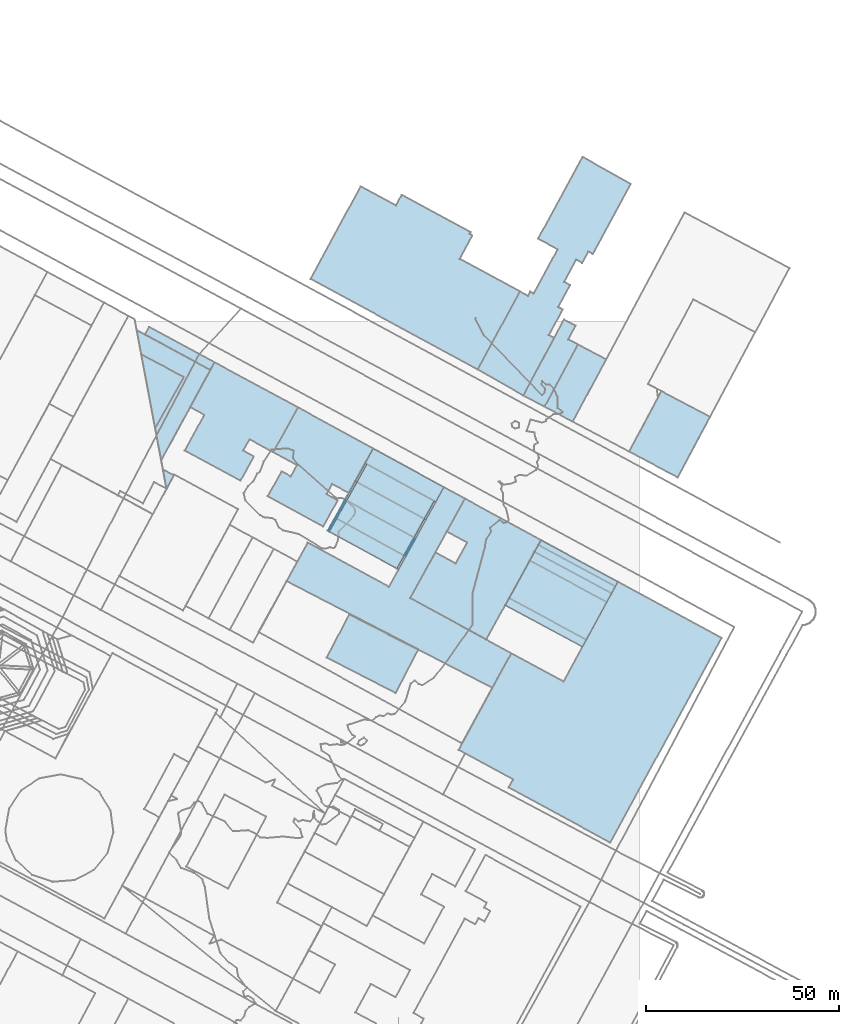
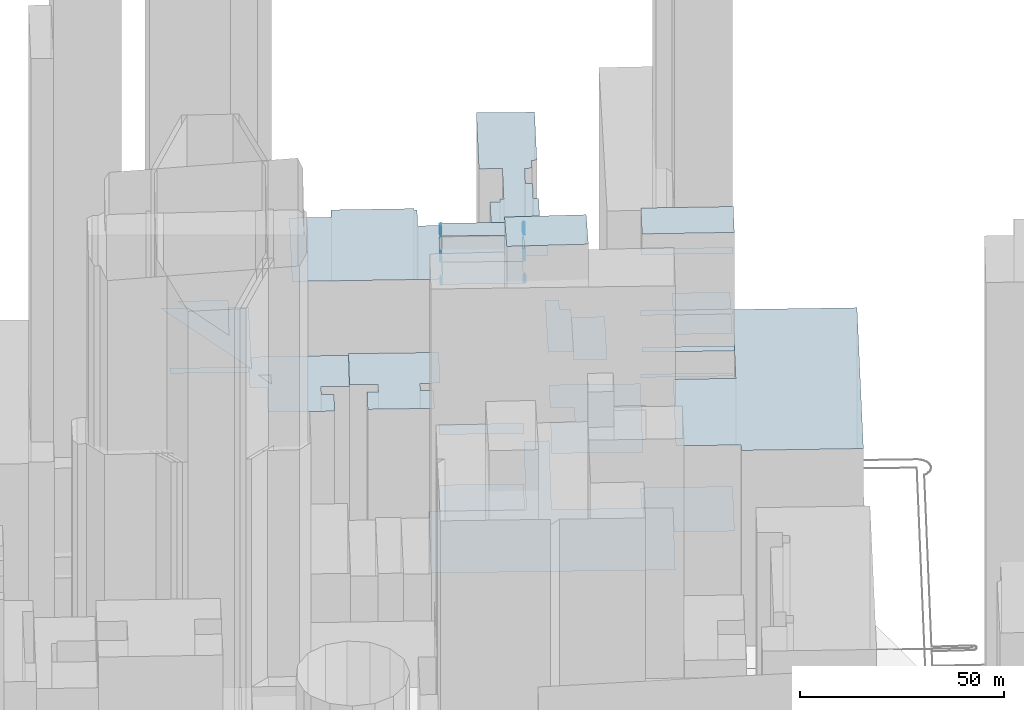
# Not in any storey, part 47 of 80: 34 roofs.
"""IFC4 building model written with IfcOpenShell, lengths in metres."""

from ifc_helpers import new_model, si_unit, frame, origin_with_axes, place, context, subcontext, project, spatial, polygons, element, save


model = new_model("IFC4")

# Units and contexts
model_context = context("Model", 3, precision=1e-05, world=origin_with_axes())
body_context = subcontext(model_context, "Body", "Model", "MODEL_VIEW")
ifc_project = project(units=[si_unit("AREAUNIT", "SQUARE_METRE"), si_unit("LENGTHUNIT", "METRE")], contexts=[model_context])

# Sites, building
site_1_placement = place(None, origin_with_axes())
site_1 = spatial("IfcSite", under=ifc_project, at=site_1_placement, Name="Topoexport Site")
site_2_placement = place(site_1_placement, origin_with_axes())
site_2 = spatial("IfcSite", under=site_1, at=site_2_placement, Name="TPX_BATIMENTS")
building_1_placement = place(site_2_placement, frame((273.8050706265, 299.0342517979, 19.0727612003), z_axis=(0.0, 0.0, 1.0), x_axis=(1.0, 0.0, 0.0)))
building_1 = spatial("IfcBuilding", under=site_2, at=building_1_placement, Name="Batiment 130", CompositionType="ELEMENT")

# Roof
roof_1_placement = place(None, frame((273.8050706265, 299.0342517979, 19.0727612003), z_axis=(0.0, 0.0, 1.0), x_axis=(1.0, 0.0, 0.0)))
element("IfcRoof", 1, at=roof_1_placement, inside=building_1, Name="Toiture 0", context=body_context, shape_type="Tessellation", body=[
    polygons([(0.0, 0.0, 20.0), (52.5953372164, -28.7420789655, 20.0), (65.4084536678, -5.4668426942, 20.0), (39.2593969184, 8.8281193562, 20.0), (53.4200569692, 34.5393207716, 20.0), (47.9405768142, 37.5286335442, 20.0), (33.7387369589, 11.728145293, 20.0), (12.77205858, 23.1858472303, 20.0)], [[[8, 1, 2]], [[2, 3, 4]], [[4, 5, 6]], [[7, 8, 2]], [[4, 6, 7]], [[7, 2, 4]]]),
])

# Building
building_2_placement = place(site_2_placement, frame((291.481800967, 292.4676192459, 19.6985343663), z_axis=(0.0, 0.0, 1.0), x_axis=(1.0, 0.0, 0.0)))
building_2 = spatial("IfcBuilding", under=site_2, at=building_2_placement, Name="Batiment 131", CompositionType="ELEMENT")

# Roof
roof_2_placement = place(None, frame((291.481800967, 292.4676192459, 19.6985343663), z_axis=(0.0, 0.0, 1.0), x_axis=(1.0, 0.0, 0.0)))
element("IfcRoof", 2, at=roof_2_placement, inside=building_2, Name="Toiture 0", context=body_context, shape_type="Tessellation", body=[
    polygons([(0.0, 0.0, 115.0), (17.8254281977, -9.1849936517, 115.0), (23.6378591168, 2.0071491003, 115.0), (5.7876459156, 11.1474308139, 115.0)], [[[4, 1, 2]], [[2, 3, 4]]]),
])

# Building
building_3_placement = place(site_2_placement, frame((313.0644675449, 307.8623711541, 19.1866417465), z_axis=(0.0, 0.0, 1.0), x_axis=(1.0, 0.0, 0.0)))
building_3 = spatial("IfcBuilding", under=site_2, at=building_3_placement, Name="Batiment 133", CompositionType="ELEMENT")

# Roof
roof_3_placement = place(None, frame((313.0644675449, 307.8623711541, 19.1866417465), z_axis=(0.0, 0.0, 1.0), x_axis=(1.0, 0.0, 0.0)))
element("IfcRoof", 3, at=roof_3_placement, inside=building_3, Name="Toiture 0", context=body_context, shape_type="Tessellation", body=[
    polygons([(0.0, 0.0, 36.5999984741), (19.658559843, -10.751216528, 36.5999984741), (33.8190454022, 14.9711235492, 36.5999984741), (14.1606600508, 25.7112014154, 36.5999984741), (9.4817474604, 17.2189943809, 36.5999984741), (14.7234881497, 14.349038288, 36.5999984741), (11.7557583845, 8.9631871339, 36.5999984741), (6.5141444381, 11.8220445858, 36.5999984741)], [[[8, 1, 2]], [[2, 3, 4]], [[4, 5, 6]], [[7, 8, 2]], [[2, 4, 6]], [[6, 7, 2]]]),
])

# Building
building_4_placement = place(site_2_placement, frame((337.6756915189, 306.0173396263, 18.6021443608), z_axis=(0.0, 0.0, 1.0), x_axis=(1.0, 0.0, 0.0)))
building_4 = spatial("IfcBuilding", under=site_2, at=building_4_placement, Name="Batiment 134", CompositionType="ELEMENT")

# Roof
roof_4_placement = place(None, frame((337.6756915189, 306.0173396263, 18.6021443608), z_axis=(0.0, 0.0, 1.0), x_axis=(1.0, 0.0, 0.0)))
element("IfcRoof", 4, at=roof_4_placement, inside=building_4, Name="Toiture 0", context=body_context, shape_type="Tessellation", body=[
    polygons([(0.0, 0.0, 6.0), (19.9288194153, -10.7591061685, 6.0), (29.0941508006, 6.0787837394, 6.0), (9.2078214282, 16.816155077, 6.0)], [[[4, 1, 2]], [[2, 3, 4]]]),
])

# Building
building_5_placement = place(site_2_placement, frame((337.6756915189, 306.0173396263, 18.6175268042), z_axis=(0.0, 0.0, 1.0), x_axis=(1.0, 0.0, 0.0)))
building_5 = spatial("IfcBuilding", under=site_2, at=building_5_placement, Name="Batiment 135", CompositionType="ELEMENT")

# Roof
roof_5_placement = place(None, frame((337.6756915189, 306.0173396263, 18.6175268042), z_axis=(0.0, 0.0, 1.0), x_axis=(1.0, 0.0, 0.0)))
element("IfcRoof", 5, at=roof_5_placement, inside=building_5, Name="Toiture 0", context=body_context, shape_type="Tessellation", body=[
    polygons([(0.0, 0.0, 60.0), (19.9288194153, -10.7591061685, 60.0), (20.9205700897, -8.9378836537, 60.0), (0.9833137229, 1.8211215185, 60.0)], [[[4, 1, 2]], [[2, 3, 4]]]),
])

# Building
building_6_placement = place(site_2_placement, frame((338.6590052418, 307.8384611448, 18.5825367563), z_axis=(0.0, 0.0, 1.0), x_axis=(1.0, 0.0, 0.0)))
building_6 = spatial("IfcBuilding", under=site_2, at=building_6_placement, Name="Batiment 136", CompositionType="ELEMENT")

# Roof
roof_6_placement = place(None, frame((338.6590052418, 307.8384611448, 18.5825367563), z_axis=(0.0, 0.0, 1.0), x_axis=(1.0, 0.0, 0.0)))
element("IfcRoof", 6, at=roof_6_placement, inside=building_6, Name="Toiture 0", context=body_context, shape_type="Tessellation", body=[
    polygons([(0.0, 0.0, 94.0), (19.9372563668, -10.7590051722, 94.0), (25.2348095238, -1.0272163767, 94.0), (5.3058816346, 9.7429734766, 94.0)], [[[4, 1, 2]], [[2, 3, 4]]]),
])

# Building
building_7_placement = place(site_2_placement, frame((325.5761584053, 268.583928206, 18.0179124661), z_axis=(0.0, 0.0, 1.0), x_axis=(1.0, 0.0, 0.0)))
building_7 = spatial("IfcBuilding", under=site_2, at=building_7_placement, Name="Batiment 137", CompositionType="ELEMENT")

# Roof
roof_7_placement = place(None, frame((325.5761584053, 268.583928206, 18.0179124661), z_axis=(0.0, 0.0, 1.0), x_axis=(1.0, 0.0, 0.0)))
element("IfcRoof", 7, at=roof_7_placement, inside=building_7, Name="Toiture 0", context=body_context, shape_type="Tessellation", body=[
    polygons([(0.0, 0.0, 59.5), (14.076432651, -7.6409558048, 59.5), (12.9441609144, -9.7191640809, 59.5), (39.2536749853, -24.0010695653, 59.5), (68.012848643, 28.9476731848, 59.5), (41.1936839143, 43.5121951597, 59.5), (27.1697109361, 17.669281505, 59.5), (13.637365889, 24.9834808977, 59.5)], [[[8, 1, 2]], [[2, 3, 4]], [[4, 5, 6]], [[7, 8, 2]], [[2, 4, 6]], [[6, 7, 2]]]),
])

# Building
building_8_placement = place(site_2_placement, frame((369.7036563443, 345.7479637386, 18.6004102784), z_axis=(0.0, 0.0, 1.0), x_axis=(1.0, 0.0, 0.0)))
building_8 = spatial("IfcBuilding", under=site_2, at=building_8_placement, Name="Batiment 225", CompositionType="ELEMENT")

# Roof
roof_8_placement = place(None, frame((369.7036563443, 345.7479637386, 18.6004102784), z_axis=(0.0, 0.0, 1.0), x_axis=(1.0, 0.0, 0.0)))
element("IfcRoof", 8, at=roof_8_placement, inside=building_8, Name="Toiture 0", context=body_context, shape_type="Tessellation", body=[
    polygons([(0.0, 0.0, 30.0), (12.5538989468, -6.6594085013, 30.0), (20.9058219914, 8.9810939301, 30.0), (8.3520704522, 15.6293873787, 30.0)], [[[4, 1, 2]], [[2, 3, 4]]]),
])

# Building
building_9_placement = place(site_2_placement, frame((347.815184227, 357.3501845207, 19.4967408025), z_axis=(0.0, 0.0, 1.0), x_axis=(1.0, 0.0, 0.0)))
building_9 = spatial("IfcBuilding", under=site_2, at=building_9_placement, Name="Batiment 227", CompositionType="ELEMENT")

# Roof
roof_9_placement = place(None, frame((347.815184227, 357.3501845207, 19.4967408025), z_axis=(0.0, 0.0, 1.0), x_axis=(1.0, 0.0, 0.0)))
element("IfcRoof", 9, at=roof_9_placement, inside=building_9, Name="Toiture 0", context=body_context, shape_type="Tessellation", body=[
    polygons([(0.0, 0.0, 22.1000003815), (7.30458982, -3.8673156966, 22.1000003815), (15.9293867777, 12.2648342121, 22.1000003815), (8.6248078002, 16.13214132, 22.1000003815)], [[[4, 1, 2]], [[2, 3, 4]]]),
])

# Building
building_10_placement = place(site_2_placement, frame((342.3281774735, 360.2616784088, 19.6845045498), z_axis=(0.0, 0.0, 1.0), x_axis=(1.0, 0.0, 0.0)))
building_10 = spatial("IfcBuilding", under=site_2, at=building_10_placement, Name="Batiment 228", CompositionType="ELEMENT")

# Roof
roof_10_placement = place(None, frame((342.3281774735, 360.2616784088, 19.6845045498), z_axis=(0.0, 0.0, 1.0), x_axis=(1.0, 0.0, 0.0)))
element("IfcRoof", 10, at=roof_10_placement, inside=building_10, Name="Toiture 0", context=body_context, shape_type="Tessellation", body=[
    polygons([(0.0, 0.0, 24.3999996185), (5.4870067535, -2.9114938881, 24.3999996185), (14.1118145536, 13.2206474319, 24.3999996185), (11.6146310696, 14.5460328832, 24.3999996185), (13.4982515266, 18.0651895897, 24.3999996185), (10.4999972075, 19.6511924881, 24.3999996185)], [[[6, 1, 2]], [[2, 3, 4]], [[4, 5, 6]], [[6, 2, 4]]]),
])

# Building
building_11_placement = place(site_2_placement, frame((291.7498532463, 325.277922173, 20.2810071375), z_axis=(0.0, 0.0, 1.0), x_axis=(1.0, 0.0, 0.0)))
building_11 = spatial("IfcBuilding", under=site_2, at=building_11_placement, Name="Batiment 229", CompositionType="ELEMENT")

# Roof
roof_11_placement = place(None, frame((291.7498532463, 325.277922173, 20.2810071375), z_axis=(0.0, 0.0, 1.0), x_axis=(1.0, 0.0, 0.0)))
element("IfcRoof", 11, at=roof_11_placement, inside=building_11, Name="Toiture 0", context=body_context, shape_type="Tessellation", body=[
    polygons([(0.0, 0.0, 6.0), (18.2821181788, -9.9901391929, 6.0), (29.9957941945, 11.2849631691, 6.0), (11.7137108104, 21.2750732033, 6.0)], [[[4, 1, 2]], [[2, 3, 4]]]),
])

# Building
building_12_placement = place(site_2_placement, frame((296.5802961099, 333.0835325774, 20.3677468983), z_axis=(0.0, 0.0, 1.0), x_axis=(1.0, 0.0, 0.0)))
building_12 = spatial("IfcBuilding", under=site_2, at=building_12_placement, Name="Batiment 230", CompositionType="ELEMENT")

# Roof
roof_12_placement = place(None, frame((296.5802961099, 333.0835325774, 20.3677468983), z_axis=(0.0, 0.0, 1.0), x_axis=(1.0, 0.0, 0.0)))
element("IfcRoof", 12, at=roof_12_placement, inside=building_12, Name="Toiture 0", context=body_context, shape_type="Tessellation", body=[
    polygons([(0.0, 0.0, 91.0), (17.4583642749, -9.5667304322, 91.0), (20.0861254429, -4.7066486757, 91.0), (2.6876256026, 4.7941587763, 91.0)], [[[4, 1, 2]], [[2, 3, 4]]]),
])

# Building
building_13_placement = place(site_2_placement, frame((292.1322472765, 325.0603282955, 20.29910505), z_axis=(0.0, 0.0, 1.0), x_axis=(1.0, 0.0, 0.0)))
building_13 = spatial("IfcBuilding", under=site_2, at=building_13_placement, Name="Batiment 231", CompositionType="ELEMENT")

# Roof
roof_13_placement = place(None, frame((292.1322472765, 325.0603282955, 20.29910505), z_axis=(0.0, 0.0, 1.0), x_axis=(1.0, 0.0, 0.0)))
element("IfcRoof", 13, at=roof_13_placement, inside=building_13, Name="Toiture 0", context=body_context, shape_type="Tessellation", body=[
    polygons([(0.0, 0.0, 83.0), (17.4495487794, -9.5335370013, 83.0), (27.0802443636, 7.9425396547, 83.0), (9.6733115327, 17.4432428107, 83.0)], [[[4, 1, 2]], [[2, 3, 4]]]),
])

# Building
building_14_placement = place(site_2_placement, frame((294.0094084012, 328.4128587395, 20.2723875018), z_axis=(0.0, 0.0, 1.0), x_axis=(1.0, 0.0, 0.0)))
building_14 = spatial("IfcBuilding", under=site_2, at=building_14_placement, Name="Batiment 232", CompositionType="ELEMENT")

# Roof
roof_14_placement = place(None, frame((294.0094084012, 328.4128587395, 20.2723875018), z_axis=(0.0, 0.0, 1.0), x_axis=(1.0, 0.0, 0.0)))
element("IfcRoof", 14, at=roof_14_placement, inside=building_14, Name="Toiture 0", context=body_context, shape_type="Tessellation", body=[
    polygons([(0.0, 0.0, 87.0), (17.4333093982, -9.5892328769, 87.0), (22.6570131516, -0.0359748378, 87.0), (5.2585133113, 9.4648326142, 87.0)], [[[4, 1, 2]], [[2, 3, 4]]]),
])

# Building
building_15_placement = place(site_2_placement, frame((296.1724525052, 333.3119322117, 20.3484595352), z_axis=(0.0, 0.0, 1.0), x_axis=(1.0, 0.0, 0.0)))
building_15 = spatial("IfcBuilding", under=site_2, at=building_15_placement, Name="Batiment 233", CompositionType="ELEMENT")

# Roof
roof_15_placement = place(None, frame((296.1724525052, 333.3119322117, 20.3484595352), z_axis=(0.0, 0.0, 1.0), x_axis=(1.0, 0.0, 0.0)))
element("IfcRoof", 15, at=roof_15_placement, inside=building_15, Name="Toiture 0", context=body_context, shape_type="Tessellation", body=[
    polygons([(0.0, 0.0, 91.0), (0.4078436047, -0.2283996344, 91.0), (3.0954692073, 4.5657591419, 91.0), (2.6536065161, 4.8159671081, 91.0)], [[[4, 1, 2]], [[2, 3, 4]]]),
])

# Building
building_16_placement = place(site_2_placement, frame((298.8260590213, 338.1278993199, 20.4512900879), z_axis=(0.0, 0.0, 1.0), x_axis=(1.0, 0.0, 0.0)))
building_16 = spatial("IfcBuilding", under=site_2, at=building_16_placement, Name="Batiment 234", CompositionType="ELEMENT")

# Roof
roof_16_placement = place(None, frame((298.8260590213, 338.1278993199, 20.4512900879), z_axis=(0.0, 0.0, 1.0), x_axis=(1.0, 0.0, 0.0)))
element("IfcRoof", 16, at=roof_16_placement, inside=building_16, Name="Toiture 0", context=body_context, shape_type="Tessellation", body=[
    polygons([(0.0, 0.0, 83.0), (0.4418626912, -0.2502079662, 83.0), (2.9794997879, 4.3756717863, 83.0), (2.5462067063, 4.6148771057, 83.0)], [[[4, 1, 2]], [[2, 3, 4]]]),
])

# Building
building_17_placement = place(site_2_placement, frame((301.3722657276, 342.7427764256, 20.3932714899), z_axis=(0.0, 0.0, 1.0), x_axis=(1.0, 0.0, 0.0)))
building_17 = spatial("IfcBuilding", under=site_2, at=building_17_placement, Name="Batiment 235", CompositionType="ELEMENT")

# Roof
roof_17_placement = place(None, frame((301.3722657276, 342.7427764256, 20.3932714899), z_axis=(0.0, 0.0, 1.0), x_axis=(1.0, 0.0, 0.0)))
element("IfcRoof", 17, at=roof_17_placement, inside=building_17, Name="Toiture 0", context=body_context, shape_type="Tessellation", body=[
    polygons([(0.0, 0.0, 24.0), (18.2820896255, -9.9901152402, 24.0), (20.3733817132, -6.1798910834, 24.0), (2.0912983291, 3.8102189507, 24.0)], [[[4, 1, 2]], [[2, 3, 4]]]),
])

# Building
building_18_placement = place(site_2_placement, frame((287.2771431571, 390.440545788, 19.5504613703), z_axis=(0.0, 0.0, 1.0), x_axis=(1.0, 0.0, 0.0)))
building_18 = spatial("IfcBuilding", under=site_2, at=building_18_placement, Name="Batiment 236", CompositionType="ELEMENT")

# Roof
roof_18_placement = place(None, frame((287.2771431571, 390.440545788, 19.5504613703), z_axis=(0.0, 0.0, 1.0), x_axis=(1.0, 0.0, 0.0)))
element("IfcRoof", 18, at=roof_18_placement, inside=building_18, Name="Toiture 0", context=body_context, shape_type="Tessellation", body=[
    polygons([(0.0, 0.0, 46.7000007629), (43.2307270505, -23.4442358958, 46.7000007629), (54.1635554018, -3.2662126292, 46.7000007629), (38.558435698, 5.1896020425, 46.7000007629), (41.8392282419, 11.2341347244, 46.7000007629), (41.1511824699, 11.603598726, 46.7000007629), (41.4073966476, 12.0728777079, 46.7000007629), (23.5851064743, 21.7352532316, 46.7000007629), (22.0893707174, 18.9755783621, 46.7000007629), (12.9658813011, 23.9208852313, 46.7000007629)], [[[10, 1, 2]], [[2, 3, 4]], [[4, 5, 6]], [[6, 7, 8]], [[9, 10, 2]], [[4, 6, 8]], [[8, 9, 2]], [[2, 4, 8]]]),
])

# Building
building_19_placement = place(site_2_placement, frame((330.5078702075, 366.9963098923, 19.4574403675), z_axis=(0.0, 0.0, 1.0), x_axis=(1.0, 0.0, 0.0)))
building_19 = spatial("IfcBuilding", under=site_2, at=building_19_placement, Name="Batiment 237", CompositionType="ELEMENT")

# Roof
roof_19_placement = place(None, frame((330.5078702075, 366.9963098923, 19.4574403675), z_axis=(0.0, 0.0, 1.0), x_axis=(1.0, 0.0, 0.0)))
element("IfcRoof", 19, at=roof_19_placement, inside=building_19, Name="Toiture 0", context=body_context, shape_type="Tessellation", body=[
    polygons([(0.0, 0.0, 53.5999984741), (11.820307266, -6.7346314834, 53.5999984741), (19.7924457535, 8.1797535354, 53.5999984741), (18.4247873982, 8.9187760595, 53.5999984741), (22.0029504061, 15.5218964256, 53.5999984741), (20.8307096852, 16.1521722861, 53.5999984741), (23.9048809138, 21.8168325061, 53.5999984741), (22.3588177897, 22.6536963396, 53.5999984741), (25.4824619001, 28.4188540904, 53.5999984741), (27.0285242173, 27.5819909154, 53.5999984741), (28.6399501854, 30.5539667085, 53.5999984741), (29.8037492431, 29.9235937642, 53.5999984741), (39.5792805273, 47.9898524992, 53.5999984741), (27.1227912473, 54.9945837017, 53.5999984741), (15.6529613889, 33.8221759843, 53.5999984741), (20.6989844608, 31.0831847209, 53.5999984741), (14.5094742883, 19.6645705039, 53.5999984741), (13.6345794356, 20.1317770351, 53.5999984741), (13.0395606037, 19.036824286, 53.5999984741), (10.9328283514, 20.1780232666, 53.5999984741)], [[[20, 1, 2]], [[2, 3, 4]], [[4, 5, 6]], [[6, 7, 8]], [[9, 10, 11]], [[11, 12, 13]], [[13, 14, 15]], [[17, 18, 19]], [[19, 20, 2]], [[2, 4, 6]], [[9, 11, 13]], [[13, 15, 16]], [[17, 19, 2]], [[2, 6, 8]], [[9, 13, 16]], [[16, 17, 2]], [[8, 9, 16]], [[16, 2, 8]]]),
])

# Building
building_20_placement = place(site_2_placement, frame((244.4280234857, 376.0307569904, 22.4522062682), z_axis=(0.0, 0.0, 1.0), x_axis=(1.0, 0.0, 0.0)))
building_20 = spatial("IfcBuilding", under=site_2, at=building_20_placement, Name="Batiment 240", CompositionType="ELEMENT")

# Roof
roof_20_placement = place(None, frame((244.4280234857, 376.0307569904, 22.4522062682), z_axis=(0.0, 0.0, 1.0), x_axis=(1.0, 0.0, 0.0)))
element("IfcRoof", 20, at=roof_20_placement, inside=building_20, Name="Toiture 0", context=body_context, shape_type="Tessellation", body=[
    polygons([(0.0, 0.0, 40.0), (16.9132443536, -9.1624091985, 40.0), (17.9876011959, -7.1848068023, 40.0), (1.0744890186, 1.9664991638, 40.0)], [[[4, 1, 2]], [[2, 3, 4]]]),
])

# Building
building_21_placement = place(site_2_placement, frame((242.3300029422, 377.1498806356, 22.0498553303), z_axis=(0.0, 0.0, 1.0), x_axis=(1.0, 0.0, 0.0)))
building_21 = spatial("IfcBuilding", under=site_2, at=building_21_placement, Name="Batiment 241", CompositionType="ELEMENT")

# Roof
roof_21_placement = place(None, frame((242.3300029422, 377.1498806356, 22.0498553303), z_axis=(0.0, 0.0, 1.0), x_axis=(1.0, 0.0, 0.0)))
element("IfcRoof", 21, at=roof_21_placement, inside=building_21, Name="Toiture 0", context=body_context, shape_type="Tessellation", body=[
    polygons([(0.0, 0.0, 60.0), (1.1962854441, -6.3254728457, 60.0), (6.3508708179, -33.6325728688, 60.0), (19.0112648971, -10.2815328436, 60.0)], [[[4, 1, 2]], [[2, 3, 4]]]),
])

# Building
building_22_placement = place(site_2_placement, frame((243.5262883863, 370.8244077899, 22.5439694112), z_axis=(0.0, 0.0, 1.0), x_axis=(1.0, 0.0, 0.0)))
building_22 = spatial("IfcBuilding", under=site_2, at=building_22_placement, Name="Batiment 242", CompositionType="ELEMENT")

# Roof
roof_22_placement = place(None, frame((243.5262883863, 370.8244077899, 22.5439694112), z_axis=(0.0, 0.0, 1.0), x_axis=(1.0, 0.0, 0.0)))
element("IfcRoof", 22, at=roof_22_placement, inside=building_22, Name="Toiture 0", context=body_context, shape_type="Tessellation", body=[
    polygons([(0.0, 0.0, 65.0), (3.5714703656, -18.9322105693, 65.0), (10.9734042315, -5.7787257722, 65.0)], [[[3, 1, 2]]]),
])

# Building
building_23_placement = place(site_2_placement, frame((254.7632851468, 346.0194741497, 19.7596316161), z_axis=(0.0, 0.0, 1.0), x_axis=(1.0, 0.0, 0.0)))
building_23 = spatial("IfcBuilding", under=site_2, at=building_23_placement, Name="Batiment 243", CompositionType="ELEMENT")

# Roof
roof_23_placement = place(None, frame((254.7632851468, 346.0194741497, 19.7596316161), z_axis=(0.0, 0.0, 1.0), x_axis=(1.0, 0.0, 0.0)))
element("IfcRoof", 23, at=roof_23_placement, inside=building_23, Name="Toiture 0", context=body_context, shape_type="Tessellation", body=[
    polygons([(0.0, 0.0, 45.7000007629), (14.39900645, -7.8149674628, 45.7000007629), (17.8285654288, -1.4911744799, 45.7000007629), (15.1187039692, -0.0239066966, 45.7000007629), (16.7053721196, 2.9033513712, 45.7000007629), (22.8641716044, -0.4333637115, 45.7000007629), (29.2543177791, 11.1651612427, 45.7000007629), (7.6523395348, 22.8264760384, 45.7000007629), (1.3634529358, 11.2291484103, 45.7000007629), (5.0248078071, 9.2400392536, 45.7000007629)], [[[10, 1, 2]], [[2, 3, 4]], [[5, 6, 7]], [[7, 8, 9]], [[10, 2, 4]], [[5, 7, 9]], [[10, 4, 5]], [[5, 9, 10]]]),
])

# Building
building_24_placement = place(site_2_placement, frame((276.2236412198, 334.2010560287, 19.6540468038), z_axis=(0.0, 0.0, 1.0), x_axis=(1.0, 0.0, 0.0)))
building_24 = spatial("IfcBuilding", under=site_2, at=building_24_placement, Name="Batiment 244", CompositionType="ELEMENT")

# Roof
roof_24_placement = place(None, frame((276.2236412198, 334.2010560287, 19.6540468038), z_axis=(0.0, 0.0, 1.0), x_axis=(1.0, 0.0, 0.0)))
element("IfcRoof", 24, at=roof_24_placement, inside=building_24, Name="Toiture 0", context=body_context, shape_type="Tessellation", body=[
    polygons([(0.0, 0.0, 46.2999992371), (14.3402296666, -7.8378155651, 46.2999992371), (18.0600146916, -1.0665434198, 46.2999992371), (15.1800483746, 0.5097591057, 46.2999992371), (16.6432091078, 3.1691298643, 46.2999992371), (20.9078444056, 0.8428913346, 46.2999992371), (27.2399228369, 12.3519393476, 46.2999992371), (7.7939617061, 22.9835793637, 46.2999992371), (1.4038155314, 11.3850544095, 46.2999992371), (7.5291182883, 8.0257498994, 46.2999992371), (5.9419365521, 5.1428922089, 46.2999992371), (3.554736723, 6.4473781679, 46.2999992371)], [[[12, 1, 2]], [[2, 3, 4]], [[5, 6, 7]], [[7, 8, 9]], [[11, 12, 2]], [[5, 7, 9]], [[10, 11, 2]], [[5, 9, 10]], [[10, 2, 4]], [[4, 5, 10]]]),
])

# Building
building_25_placement = place(site_2_placement, frame((249.1568769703, 341.0581442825, 21.493715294), z_axis=(0.0, 0.0, 1.0), x_axis=(1.0, 0.0, 0.0)))
building_25 = spatial("IfcBuilding", under=site_2, at=building_25_placement, Name="Batiment 245", CompositionType="ELEMENT")

# Roof
roof_25_placement = place(None, frame((249.1568769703, 341.0581442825, 21.493715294), z_axis=(0.0, 0.0, 1.0), x_axis=(1.0, 0.0, 0.0)))
element("IfcRoof", 25, at=roof_25_placement, inside=building_25, Name="Toiture 0", context=body_context, shape_type="Tessellation", body=[
    polygons([(0.0, 0.0, 60.0), (0.8846148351, -4.9302132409, 60.0), (2.7518015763, -1.444582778, 60.0)], [[[3, 1, 2]]]),
])

# Building
building_26_placement = place(site_2_placement, frame((309.5817960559, 315.5267912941, 20.5242060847), z_axis=(0.0, 0.0, 1.0), x_axis=(1.0, 0.0, 0.0)))
building_26 = spatial("IfcBuilding", under=site_2, at=building_26_placement, Name="Batiment 266", CompositionType="ELEMENT")

# Roof
roof_26_placement = place(None, frame((309.5817960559, 315.5267912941, 20.5242060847), z_axis=(0.0, 0.0, 1.0), x_axis=(1.0, 0.0, 0.0)))
element("IfcRoof", 26, at=roof_26_placement, inside=building_26, Name="Toiture 0", context=body_context, shape_type="Tessellation", body=[
    polygons([(0.0, 0.0, 83.0), (0.4501753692, -0.239008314, 83.0), (2.2853885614, 3.0908338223, 83.0), (1.8609217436, 3.2968345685, 83.0)], [[[4, 1, 2]], [[2, 3, 4]]]),
])

# Building
building_27_placement = place(site_2_placement, frame((343.9648868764, 317.5814346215, 18.5825367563), z_axis=(0.0, 0.0, 1.0), x_axis=(1.0, 0.0, 0.0)))
building_27 = spatial("IfcBuilding", under=site_2, at=building_27_placement, Name="Batiment 267", CompositionType="ELEMENT")

# Roof
roof_27_placement = place(None, frame((343.9648868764, 317.5814346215, 18.5825367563), z_axis=(0.0, 0.0, 1.0), x_axis=(1.0, 0.0, 0.0)))
element("IfcRoof", 27, at=roof_27_placement, inside=building_27, Name="Toiture 0", context=body_context, shape_type="Tessellation", body=[
    polygons([(0.0, 0.0, 80.0), (19.9289278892, -10.7701898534, 80.0), (21.1603982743, -8.513185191, 80.0), (1.2230342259, 2.2569030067, 80.0)], [[[4, 1, 2]], [[2, 3, 4]]]),
])

# Building
building_28_placement = place(site_2_placement, frame((345.1879211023, 319.8383376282, 18.6172280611), z_axis=(0.0, 0.0, 1.0), x_axis=(1.0, 0.0, 0.0)))
building_28 = spatial("IfcBuilding", under=site_2, at=building_28_placement, Name="Batiment 268", CompositionType="ELEMENT")

# Roof
roof_28_placement = place(None, frame((345.1879211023, 319.8383376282, 18.6172280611), z_axis=(0.0, 0.0, 1.0), x_axis=(1.0, 0.0, 0.0)))
element("IfcRoof", 28, at=roof_28_placement, inside=building_28, Name="Toiture 0", context=body_context, shape_type="Tessellation", body=[
    polygons([(0.0, 0.0, 60.0), (19.9373640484, -10.7700881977, 60.0), (20.9208000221, -8.9600636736, 60.0), (1.0344684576, 1.777309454, 60.0)], [[[4, 1, 2]], [[2, 3, 4]]]),
])

# Building
building_29_placement = place(site_2_placement, frame((346.2223895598, 321.6156470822, 18.6021443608), z_axis=(0.0, 0.0, 1.0), x_axis=(1.0, 0.0, 0.0)))
building_29 = spatial("IfcBuilding", under=site_2, at=building_29_placement, Name="Batiment 269", CompositionType="ELEMENT")

# Roof
roof_29_placement = place(None, frame((346.2223895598, 321.6156470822, 18.6021443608), z_axis=(0.0, 0.0, 1.0), x_axis=(1.0, 0.0, 0.0)))
element("IfcRoof", 29, at=roof_29_placement, inside=building_29, Name="Toiture 0", context=body_context, shape_type="Tessellation", body=[
    polygons([(0.0, 0.0, 40.0), (19.8863315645, -10.7373731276, 40.0), (20.5474527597, -9.5195237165, 40.0), (0.6611233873, 1.2178476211, 40.0)], [[[4, 1, 2]], [[2, 3, 4]]]),
])

# Building
building_30_placement = place(site_2_placement, frame((316.6664215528, 328.3768839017, 20.4318162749), z_axis=(0.0, 0.0, 1.0), x_axis=(1.0, 0.0, 0.0)))
building_30 = spatial("IfcBuilding", under=site_2, at=building_30_placement, Name="Batiment 270", CompositionType="ELEMENT")

# Roof
roof_30_placement = place(None, frame((316.6664215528, 328.3768839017, 20.4318162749), z_axis=(0.0, 0.0, 1.0), x_axis=(1.0, 0.0, 0.0)))
element("IfcRoof", 30, at=roof_30_placement, inside=building_30, Name="Toiture 0", context=body_context, shape_type="Tessellation", body=[
    polygons([(0.0, 0.0, 83.0), (0.4417346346, -0.2391061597, 83.0), (2.9879338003, 4.3757772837, 83.0), (2.5460700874, 4.6259840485, 83.0)], [[[4, 1, 2]], [[2, 3, 4]]]),
])

# Building
building_31_placement = place(site_2_placement, frame((311.4427177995, 318.8236258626, 20.4862365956), z_axis=(0.0, 0.0, 1.0), x_axis=(1.0, 0.0, 0.0)))
building_31 = spatial("IfcBuilding", under=site_2, at=building_31_placement, Name="Batiment 271", CompositionType="ELEMENT")

# Roof
roof_31_placement = place(None, frame((311.4427177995, 318.8236258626, 20.4862365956), z_axis=(0.0, 0.0, 1.0), x_axis=(1.0, 0.0, 0.0)))
element("IfcRoof", 31, at=roof_31_placement, inside=building_31, Name="Toiture 0", context=body_context, shape_type="Tessellation", body=[
    polygons([(0.0, 0.0, 87.0), (0.4244668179, -0.2060007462, 87.0), (3.003658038, 4.4758783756, 87.0), (2.5959425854, 4.6931762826, 87.0)], [[[4, 1, 2]], [[2, 3, 4]]]),
])

# Building
building_32_placement = place(site_2_placement, frame((314.0386603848, 323.5168021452, 20.4684876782), z_axis=(0.0, 0.0, 1.0), x_axis=(1.0, 0.0, 0.0)))
building_32 = spatial("IfcBuilding", under=site_2, at=building_32_placement, Name="Batiment 272", CompositionType="ELEMENT")

# Roof
roof_32_placement = place(None, frame((314.0386603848, 323.5168021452, 20.4684876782), z_axis=(0.0, 0.0, 1.0), x_axis=(1.0, 0.0, 0.0)))
element("IfcRoof", 32, at=roof_32_placement, inside=building_32, Name="Toiture 0", context=body_context, shape_type="Tessellation", body=[
    polygons([(0.0, 0.0, 91.0), (0.4077154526, -0.217297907, 91.0), (3.0694958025, 4.6209755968, 91.0), (2.6277611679, 4.8600817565, 91.0)], [[[4, 1, 2]], [[2, 3, 4]]]),
])

# Building
building_33_placement = place(site_2_placement, frame((293.5849426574, 328.6188604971, 20.2483066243), z_axis=(0.0, 0.0, 1.0), x_axis=(1.0, 0.0, 0.0)))
building_33 = spatial("IfcBuilding", under=site_2, at=building_33_placement, Name="Batiment 273", CompositionType="ELEMENT")

# Roof
roof_33_placement = place(None, frame((293.5849426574, 328.6188604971, 20.2483066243), z_axis=(0.0, 0.0, 1.0), x_axis=(1.0, 0.0, 0.0)))
element("IfcRoof", 33, at=roof_33_placement, inside=building_33, Name="Toiture 0", context=body_context, shape_type="Tessellation", body=[
    polygons([(0.0, 0.0, 87.0), (0.4244657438, -0.2060017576, 87.0), (2.9953534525, 4.4646720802, 87.0), (2.5875098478, 4.6930717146, 87.0)], [[[4, 1, 2]], [[2, 3, 4]]]),
])

# Building
building_34_placement = place(site_2_placement, frame((291.7498532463, 325.277922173, 20.2483066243), z_axis=(0.0, 0.0, 1.0), x_axis=(1.0, 0.0, 0.0)))
building_34 = spatial("IfcBuilding", under=site_2, at=building_34_placement, Name="Batiment 274", CompositionType="ELEMENT")

# Roof
roof_34_placement = place(None, frame((291.7498532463, 325.277922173, 20.2483066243), z_axis=(0.0, 0.0, 1.0), x_axis=(1.0, 0.0, 0.0)))
element("IfcRoof", 34, at=roof_34_placement, inside=building_34, Name="Toiture 0", context=body_context, shape_type="Tessellation", body=[
    polygons([(0.0, 0.0, 83.0), (0.3823940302, -0.2175938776, 83.0), (2.2595551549, 3.1349365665, 83.0), (1.8350894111, 3.3409383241, 83.0)], [[[4, 1, 2]], [[2, 3, 4]]]),
])

save(model, "model.ifc")
